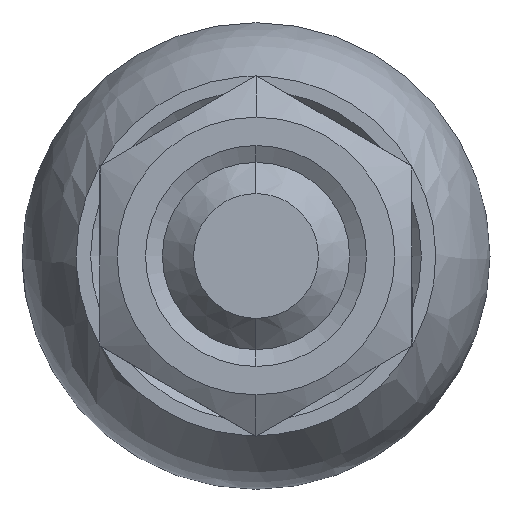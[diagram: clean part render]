
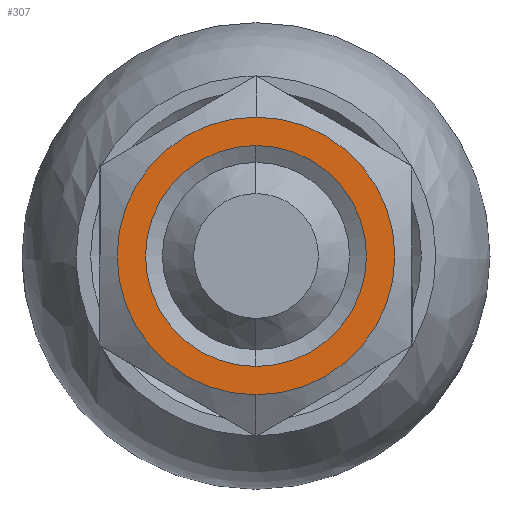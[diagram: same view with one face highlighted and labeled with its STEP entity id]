
A CAD part, left-side view. The second image highlights one B-rep face of the part: STEP entity #307.
In plain terms, the highlighted planar face has unit normal (-1, 0, 0).
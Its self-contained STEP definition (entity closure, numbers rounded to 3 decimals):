
#188 = ORIENTED_EDGE ( 'NONE', *, *, #246, .T. ) ;
#246 = EDGE_CURVE ( 'NONE', #842, #2138, #1798, .T. ) ;
#307 = ADVANCED_FACE ( 'NONE', ( #1293, #3816 ), #4204, .F. ) ;
#842 = VERTEX_POINT ( 'NONE', #2614 ) ;
#1076 = CARTESIAN_POINT ( 'NONE',  ( -45.67, 0., 0. ) ) ;
#1084 = AXIS2_PLACEMENT_3D ( 'NONE', #3085, #1761, #3369 ) ;
#1087 = DIRECTION ( 'NONE',  ( 0., 0., -1. ) ) ;
#1101 = DIRECTION ( 'NONE',  ( 1., 0., 0. ) ) ;
#1155 = CARTESIAN_POINT ( 'NONE',  ( -45.67, 0., 4.45 ) ) ;
#1156 = EDGE_LOOP ( 'NONE', ( #4063, #2568 ) ) ;
#1195 = EDGE_LOOP ( 'NONE', ( #188, #3118 ) ) ;
#1293 = FACE_BOUND ( 'NONE', #1195, .T. ) ;
#1365 = CIRCLE ( 'NONE', #1920, 4.45 ) ;
#1473 = AXIS2_PLACEMENT_3D ( 'NONE', #2799, #1101, #1087 ) ;
#1494 = VERTEX_POINT ( 'NONE', #1520 ) ;
#1520 = CARTESIAN_POINT ( 'NONE',  ( -45.67, 0., -4.45 ) ) ;
#1753 = DIRECTION ( 'NONE',  ( 1., 0., 0. ) ) ;
#1761 = DIRECTION ( 'NONE',  ( 1., 0., 0. ) ) ;
#1798 = CIRCLE ( 'NONE', #2816, 3.541 ) ;
#1878 = VERTEX_POINT ( 'NONE', #1155 ) ;
#1920 = AXIS2_PLACEMENT_3D ( 'NONE', #1076, #1753, #4131 ) ;
#2136 = EDGE_CURVE ( 'NONE', #1494, #1878, #4116, .T. ) ;
#2138 = VERTEX_POINT ( 'NONE', #3412 ) ;
#2162 = EDGE_CURVE ( 'NONE', #1878, #1494, #1365, .T. ) ;
#2212 = DIRECTION ( 'NONE',  ( 1., 0., 0. ) ) ;
#2568 = ORIENTED_EDGE ( 'NONE', *, *, #2162, .F. ) ;
#2588 = EDGE_CURVE ( 'NONE', #2138, #842, #3724, .T. ) ;
#2614 = CARTESIAN_POINT ( 'NONE',  ( -45.67, 0., 3.541 ) ) ;
#2799 = CARTESIAN_POINT ( 'NONE',  ( -45.67, 0., 0. ) ) ;
#2816 = AXIS2_PLACEMENT_3D ( 'NONE', #3108, #3134, #3728 ) ;
#2856 = DIRECTION ( 'NONE',  ( 0., 0., -1. ) ) ;
#3085 = CARTESIAN_POINT ( 'NONE',  ( -45.67, 0., 0. ) ) ;
#3108 = CARTESIAN_POINT ( 'NONE',  ( -45.67, 0., 0. ) ) ;
#3118 = ORIENTED_EDGE ( 'NONE', *, *, #2588, .T. ) ;
#3134 = DIRECTION ( 'NONE',  ( 1., 0., 0. ) ) ;
#3369 = DIRECTION ( 'NONE',  ( 0., 0., 1. ) ) ;
#3412 = CARTESIAN_POINT ( 'NONE',  ( -45.67, 0., -3.541 ) ) ;
#3459 = CARTESIAN_POINT ( 'NONE',  ( -45.67, 0., 0. ) ) ;
#3724 = CIRCLE ( 'NONE', #1084, 3.541 ) ;
#3728 = DIRECTION ( 'NONE',  ( 0., 0., 1. ) ) ;
#3816 = FACE_OUTER_BOUND ( 'NONE', #1156, .T. ) ;
#4063 = ORIENTED_EDGE ( 'NONE', *, *, #2136, .F. ) ;
#4116 = CIRCLE ( 'NONE', #1473, 4.45 ) ;
#4131 = DIRECTION ( 'NONE',  ( 0., 0., -1. ) ) ;
#4204 = PLANE ( 'NONE',  #4245 ) ;
#4245 = AXIS2_PLACEMENT_3D ( 'NONE', #3459, #2212, #2856 ) ;
